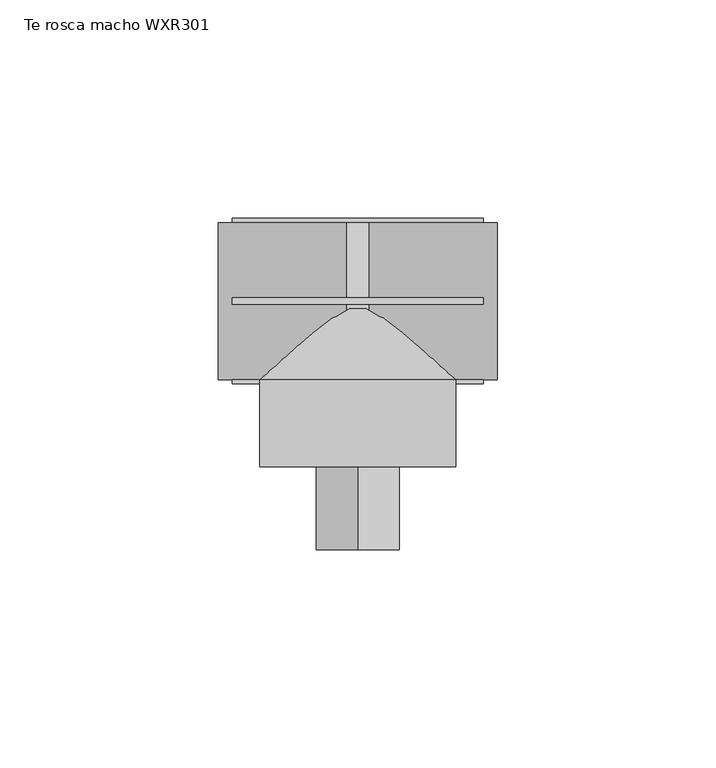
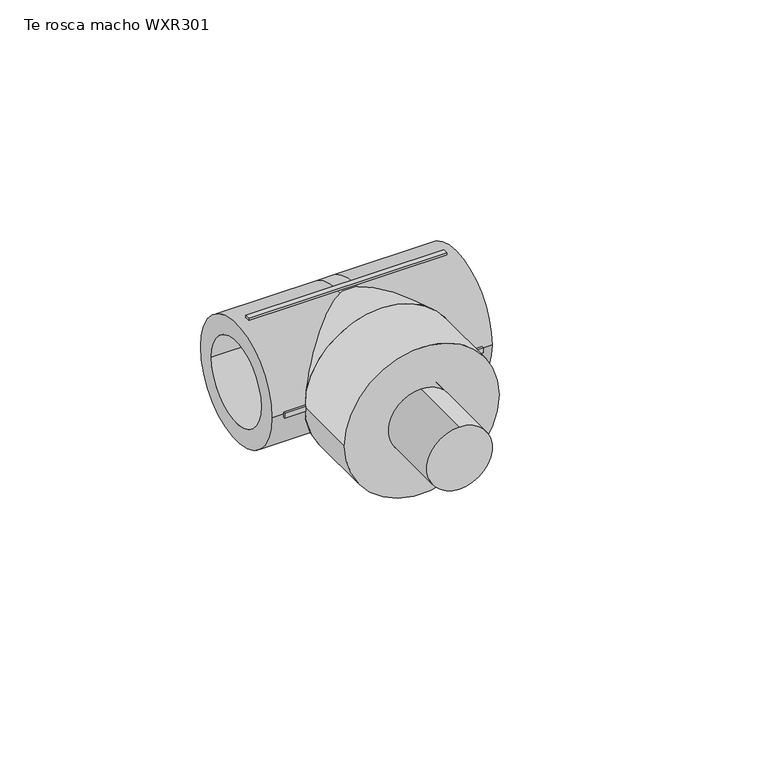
"""IFC4 building model written with IfcOpenShell, lengths in millimetres: pipe fitting geometry, EGB_VASEN_ PPR_Te rosca macho WXR301 : Te rosca macho WXR301."""

from ifc_helpers import new_model, si_unit, point, frame, origin, origin_2d, place, context, project, spatial, polyline, circle_curve, trimmed, segment, composite_curve, outline, extrude, source, transform, mapped, element, save
from ifc_brep_helpers import plane_surface, cylinder_surface, revolved_surface, advanced_brep


def te_rosca_macho_wxr301_ccacbdb2(model_context):
    return source(origin(), model_context, "Body", "SolidModel", [
        extrude(outline(composite_curve([segment(trimmed(circle_curve(origin_2d(), 9.525), [point((-9.525, 0.0))], [point((9.525, 0.0))], False, "CARTESIAN"), True, "CONTINUOUS"), segment(trimmed(circle_curve(origin_2d(), 9.525), [point((9.525, 0.0))], [point((-9.525, 0.0))], False, "CARTESIAN"), True, "CONTINUOUS")], self_intersect=False)), frame((0.0, -57.0, 0.0), z_axis=(0.0, 1.0, 0.0), x_axis=(0.0, 0.0, 1.0)), (0.0, 0.0, 1.0), 38.0),
        advanced_brep(
        [(2.56, -12.5, 0.0), (2.56, 12.5, 0.0), (-2.56, 12.5, 0.0), (-2.56, -12.5, 0.0), (-2.56, 18.0, 0.0), (2.56, 18.0, 0.0), (2.56, -18.0, 0.0), (-2.56, -18.0, 0.0), (32.0, -18.0, 0.0), (32.0, 18.0, 0.0), (32.0, -12.5, 0.0), (32.0, 12.5, 0.0), (-32.0, -18.0, 0.0), (-32.0, 18.0, 0.0), (-32.0, -12.5, 0.0), (-32.0, 12.5, 0.0)],
        [
            (0, 1, circle_curve(frame((2.56, 0.0, 0.0), z_axis=(1.0, 0.0, 0.0), x_axis=(0.0, 1.0, 0.0)), 12.5)),
            (1, 0, circle_curve(frame((2.56, 0.0, 0.0), z_axis=(1.0, 0.0, 0.0), x_axis=(0.0, 1.0, 0.0)), 12.5)),
            (2, 3, circle_curve(frame((-2.56, 0.0, 0.0), z_axis=(-1.0, 0.0, 0.0), x_axis=(0.0, 1.0, 0.0)), 12.5)),
            (3, 2, circle_curve(frame((-2.56, 0.0, 0.0), z_axis=(-1.0, 0.0, 0.0), x_axis=(0.0, 1.0, 0.0)), 12.5)),
            (4, 5),
            (5, 6, circle_curve(frame((2.56, 0.0, 0.0), z_axis=(-1.0, 0.0, 0.0), x_axis=(0.0, 0.0, -1.0)), 18.0)),
            (6, 7),
            (7, 4, circle_curve(frame((-2.56, 0.0, 0.0), z_axis=(1.0, 0.0, 0.0), x_axis=(0.0, 0.0, -1.0)), 18.0)),
            (4, 7, circle_curve(frame((-2.56, 0.0, 0.0), z_axis=(1.0, 0.0, 0.0), x_axis=(0.0, 0.0, 1.0)), 18.0)),
            (6, 5, circle_curve(frame((2.56, 0.0, 0.0), z_axis=(-1.0, 0.0, 0.0), x_axis=(0.0, 0.0, 1.0)), 18.0)),
            (8, 9, circle_curve(frame((32.0, 0.0, 0.0), z_axis=(1.0, 0.0, 0.0), x_axis=(0.0, 1.0, 0.0)), 18.0)),
            (9, 8, circle_curve(frame((32.0, 0.0, 0.0), z_axis=(1.0, 0.0, 0.0), x_axis=(0.0, 1.0, 0.0)), 18.0)),
            (10, 11, circle_curve(frame((32.0, 0.0, 0.0), z_axis=(-1.0, 0.0, 0.0), x_axis=(0.0, 1.0, 0.0)), 12.5)),
            (11, 10, circle_curve(frame((32.0, 0.0, 0.0), z_axis=(-1.0, 0.0, 0.0), x_axis=(0.0, 1.0, 0.0)), 12.5)),
            (9, 5),
            (6, 8),
            (11, 1),
            (0, 10),
            (12, 13, circle_curve(frame((-32.0, 0.0, 0.0), z_axis=(-1.0, 0.0, 0.0), x_axis=(0.0, 1.0, 0.0)), 18.0)),
            (13, 12, circle_curve(frame((-32.0, 0.0, 0.0), z_axis=(-1.0, 0.0, 0.0), x_axis=(0.0, 1.0, 0.0)), 18.0)),
            (14, 15, circle_curve(frame((-32.0, 0.0, 0.0), z_axis=(1.0, 0.0, 0.0), x_axis=(0.0, 1.0, 0.0)), 12.5)),
            (15, 14, circle_curve(frame((-32.0, 0.0, 0.0), z_axis=(1.0, 0.0, 0.0), x_axis=(0.0, 1.0, 0.0)), 12.5)),
            (12, 7),
            (4, 13),
            (14, 3),
            (2, 15),
        ],
        [
            plane_surface(frame((2.56, 0.0, 0.0), z_axis=(1.0, 0.0, 0.0), x_axis=(0.0, 0.0, -1.0))),
            plane_surface(frame((-2.56, 0.0, 0.0), z_axis=(-1.0, 0.0, 0.0), x_axis=(0.0, 0.0, -1.0))),
            cylinder_surface(frame((-2.56, 0.0, 0.0), z_axis=(1.0, 0.0, 0.0), x_axis=(0.0, 0.0, -1.0)), 18.0),
            cylinder_surface(frame((-2.56, 0.0, 0.0), z_axis=(1.0, 0.0, 0.0), x_axis=(0.0, 0.0, 1.0)), 18.0),
            plane_surface(frame((32.0, 0.0, 0.0), z_axis=(1.0, 0.0, 0.0), x_axis=(0.0, 0.0, 1.0))),
            cylinder_surface(frame((2.56, 0.0, 0.0), z_axis=(-1.0, 0.0, 0.0), x_axis=(0.0, 1.0, 0.0)), 18.0),
            revolved_surface(polyline([(32.0, 12.5, 0.0), (2.56, 12.5, 0.0)]), (2.56, 0.0, 0.0), (1.0, 0.0, 0.0)),
            plane_surface(frame((-32.0, 0.0, 0.0), z_axis=(-1.0, 0.0, 0.0), x_axis=(0.0, 0.0, 1.0))),
            cylinder_surface(frame((-32.0, 0.0, 0.0), z_axis=(-1.0, 0.0, 0.0), x_axis=(0.0, 1.0, 0.0)), 18.0),
            revolved_surface(polyline([(-2.5599999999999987, 12.5, 0.0), (-32.0, 12.5, 0.0)]), (-32.0, 0.0, 0.0), (1.0, 0.0, 0.0)),
        ],
        [
            (0, [[1, 2]]),
            (1, [[3, 4]]),
            (2, [[5, 6, 7, 8]]),
            (3, [[-5, 9, -7, 10]]),
            (4, [[11, 12], [13, 14]]),
            (5, [[-12, 15, -10, 16]]),
            (5, [[-11, -16, -6, -15]]),
            (6, [[-14, 17, -1, 18]]),
            (6, [[-13, -18, -2, -17]]),
            (7, [[19, 20], [21, 22]]),
            (8, [[-19, 23, -9, 24]]),
            (8, [[-20, -24, -8, -23]]),
            (9, [[-21, 25, -3, 26]]),
            (9, [[-22, -26, -4, -25]]),
        ],
    ),
        extrude(outline(composite_curve([segment(trimmed(circle_curve(origin_2d(), 22.5), [point((0.0, 22.5))], [point((0.0, -22.5))], False, "CARTESIAN"), True, "CONTINUOUS"), segment(trimmed(circle_curve(origin_2d(), 22.5), [point((0.0, -22.5))], [point((0.0, 22.5))], False, "CARTESIAN"), True, "CONTINUOUS")], self_intersect=False), holes=[composite_curve([segment(trimmed(circle_curve(origin_2d(), 9.525), [point((0.0, 9.525))], [point((0.0, -9.525))], True, "CARTESIAN"), True, "CONTINUOUS"), segment(trimmed(circle_curve(origin_2d(), 9.525), [point((0.0, -9.525))], [point((0.0, 9.525))], True, "CARTESIAN"), True, "CONTINUOUS")], self_intersect=False)]), frame((0.0, -38.0, 0.0), z_axis=(0.0, 1.0, 0.0), x_axis=(0.0, 0.0, 1.0)), (0.0, 0.0, 1.0), 20.0),
        advanced_brep(
        [(18.0, 0.0, 0.0), (-18.0, 0.0, 0.0), (22.5, -18.0, 0.0), (-22.5, -18.0, 0.0)],
        [
            (0, 1, circle_curve(frame((0.0, 0.0, 0.0), z_axis=(0.0, 1.0, 0.0), x_axis=(1.0, 0.0, 0.0)), 18.0)),
            (1, 0, circle_curve(frame((0.0, 0.0, 0.0), z_axis=(0.0, 1.0, 0.0), x_axis=(-1.0, 0.0, 0.0)), 18.0)),
            (2, 3, circle_curve(frame((0.0, -18.0, 0.0), z_axis=(0.0, -1.0, 0.0), x_axis=(-1.0, 0.0, 0.0)), 22.5)),
            (3, 2, circle_curve(frame((0.0, -18.0, 0.0), z_axis=(0.0, -1.0, 0.0), x_axis=(1.0, 0.0, 0.0)), 22.5)),
            (3, 1),
            (0, 2),
        ],
        [
            plane_surface(frame((0.0, 0.0, 0.0), z_axis=(0.0, 1.0, 0.0), x_axis=(0.0, 0.0, -1.0))),
            plane_surface(frame((0.0, -18.0, 0.0), z_axis=(0.0, -1.0, 0.0), x_axis=(0.0, 0.0, -1.0))),
            revolved_surface(polyline([(18.0, 0.0, 0.0), (22.5, -18.0, 0.0)]), (0.0, 72.0, 0.0), (0.0, -1.0, 0.0)),
            revolved_surface(polyline([(-18.0, 0.0, 0.0), (-22.5, -18.0, 0.0)]), (0.0, 72.0, 0.0), (0.0, -1.0, 0.0)),
        ],
        [
            (0, [[1, 2]]),
            (1, [[3, 4]]),
            (2, [[-4, 5, -1, 6]]),
            (3, [[-3, -6, -2, -5]]),
        ],
    ),
        extrude(outline(polyline([(28.8, 0.75), (28.8, -0.75), (-28.8, -0.75), (-28.8, 0.75), (28.8, 0.75)])), frame((0.0, 0.0, 17.0), z_axis=(0.0, 0.0, 1.0), x_axis=(1.0, 0.0, 0.0)), (0.0, 0.0, 1.0), 2.0),
        extrude(outline(polyline([(28.8, 0.75), (28.8, -0.75), (-28.8, -0.75), (-28.8, 0.75), (28.8, 0.75)])), frame((0.0, 0.0, -19.0), z_axis=(0.0, 0.0, 1.0), x_axis=(1.0, 0.0, 0.0)), (0.0, 0.0, 1.0), 2.0),
        extrude(outline(polyline([(28.8, 19.0), (28.8, 17.0), (-28.8, 17.0), (-28.8, 19.0), (28.8, 19.0)])), frame((0.0, 0.0, -0.75), z_axis=(0.0, 0.0, 1.0), x_axis=(1.0, 0.0, 0.0)), (0.0, 0.0, 1.0), 1.5),
        extrude(outline(polyline([(28.8, -17.0), (28.8, -19.0), (-28.8, -19.0), (-28.8, -17.0), (28.8, -17.0)])), frame((0.0, 0.0, -0.75), z_axis=(0.0, 0.0, 1.0), x_axis=(1.0, 0.0, 0.0)), (0.0, 0.0, 1.0), 1.5),
    ])


if __name__ == "__main__":
    model = new_model("IFC4")
    model_context = context("Model", 3, world=origin())
    ifc_project = project(units=[si_unit("LENGTHUNIT", "METRE", prefix="MILLI")], contexts=[model_context])
    site = spatial("IfcSite", under=ifc_project)
    building = spatial("IfcBuilding", under=site)
    placement = place(None, origin())
    te_rosca_macho_wxr301_shape = te_rosca_macho_wxr301_ccacbdb2(model_context)
    element("IfcPipeFitting", 1, ObjectType="EGB_VASEN_ PPR_Te rosca macho WXR301 : Te rosca macho WXR301", at=placement, inside=building, context=model_context, shape_type="MappedRepresentation", body=[
        mapped(te_rosca_macho_wxr301_shape, transform((0.0, 0.0, 0.0), x_axis=(1.0, 0.0, 0.0), y_axis=(0.0, 1.0, 0.0), z_axis=(0.0, 0.0, 1.0))),
    ])
    save(model, "model.ifc")
